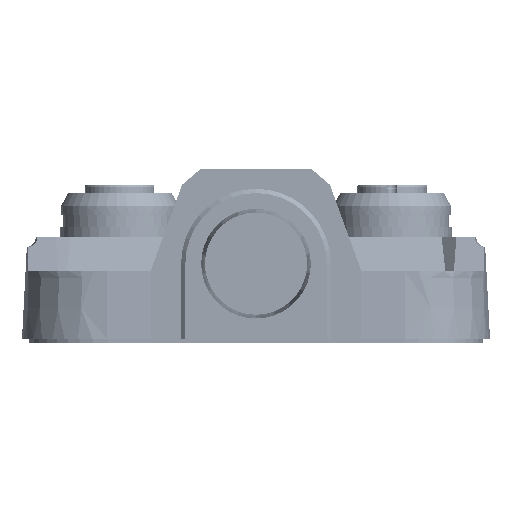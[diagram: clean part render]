
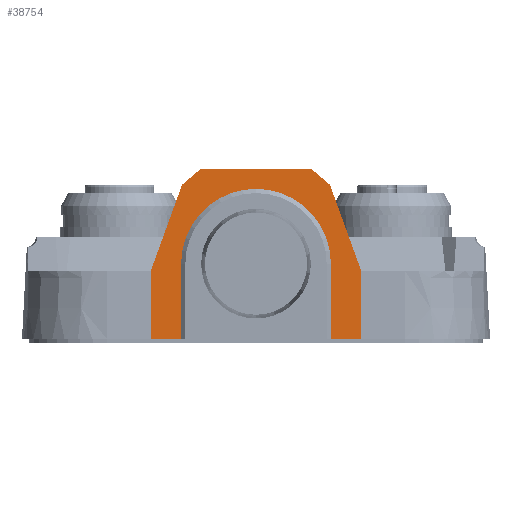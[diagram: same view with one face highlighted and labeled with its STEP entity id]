
A CAD part, left-side view. The second image highlights one B-rep face of the part: STEP entity #38754.
In plain terms, the highlighted planar face has unit normal (-1, 0, 0).
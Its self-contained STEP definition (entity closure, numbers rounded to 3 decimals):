
#2402=LINE('',#159469,#15999);
#2410=LINE('',#159493,#16007);
#6171=LINE('',#167333,#19768);
#6175=LINE('',#167341,#19772);
#6176=LINE('',#167343,#19773);
#6177=LINE('',#167345,#19774);
#6178=LINE('',#167347,#19775);
#6179=LINE('',#167349,#19776);
#6180=LINE('',#167350,#19777);
#6181=LINE('',#167351,#19778);
#6182=LINE('',#167355,#19779);
#15999=VECTOR('',#130554,1.);
#16007=VECTOR('',#130570,1.);
#19768=VECTOR('',#134519,1.);
#19772=VECTOR('',#134525,1.);
#19773=VECTOR('',#134528,1.);
#19774=VECTOR('',#134529,1.);
#19775=VECTOR('',#134530,1.);
#19776=VECTOR('',#134531,1.);
#19777=VECTOR('',#134532,1.);
#19778=VECTOR('',#134533,1.);
#19779=VECTOR('',#134536,1.);
#30997=PLANE('',#122801);
#38754=ADVANCED_FACE('',(#45288),#30997,.T.);
#45288=FACE_OUTER_BOUND('',#50964,.T.);
#50964=EDGE_LOOP('',(#62622,#62623,#62624,#62625,#62626,#62627,#62628,#62629,
#62630,#62631,#62632,#62633));
#62622=ORIENTED_EDGE('',*,*,#108035,.F.);
#62623=ORIENTED_EDGE('',*,*,#108036,.T.);
#62624=ORIENTED_EDGE('',*,*,#108037,.T.);
#62625=ORIENTED_EDGE('',*,*,#108038,.T.);
#62626=ORIENTED_EDGE('',*,*,#108034,.T.);
#62627=ORIENTED_EDGE('',*,*,#108030,.T.);
#62628=ORIENTED_EDGE('',*,*,#108039,.F.);
#62629=ORIENTED_EDGE('',*,*,#104174,.F.);
#62630=ORIENTED_EDGE('',*,*,#108040,.F.);
#62631=ORIENTED_EDGE('',*,*,#108041,.T.);
#62632=ORIENTED_EDGE('',*,*,#108042,.T.);
#62633=ORIENTED_EDGE('',*,*,#104186,.F.);
#92530=VERTEX_POINT('',#159467);
#92532=VERTEX_POINT('',#159470);
#92543=VERTEX_POINT('',#159492);
#92544=VERTEX_POINT('',#159494);
#96371=VERTEX_POINT('',#167320);
#96377=VERTEX_POINT('',#167334);
#96378=VERTEX_POINT('',#167338);
#96380=VERTEX_POINT('',#167344);
#96381=VERTEX_POINT('',#167346);
#96382=VERTEX_POINT('',#167348);
#96383=VERTEX_POINT('',#167352);
#96384=VERTEX_POINT('',#167354);
#104174=EDGE_CURVE('',#92530,#92532,#2402,.T.);
#104186=EDGE_CURVE('',#92543,#92544,#2410,.T.);
#108030=EDGE_CURVE('',#96377,#96371,#6171,.T.);
#108034=EDGE_CURVE('',#96378,#96377,#6175,.T.);
#108035=EDGE_CURVE('',#96380,#92543,#6176,.T.);
#108036=EDGE_CURVE('',#96380,#96381,#6177,.T.);
#108037=EDGE_CURVE('',#96381,#96382,#6178,.T.);
#108038=EDGE_CURVE('',#96382,#96378,#6179,.T.);
#108039=EDGE_CURVE('',#92532,#96371,#6180,.T.);
#108040=EDGE_CURVE('',#96383,#92530,#6181,.T.);
#108041=EDGE_CURVE('',#96383,#96384,#121122,.T.);
#108042=EDGE_CURVE('',#96384,#92544,#6182,.T.);
#121122=CIRCLE('',#122800,8.8);
#122800=AXIS2_PLACEMENT_3D('',#167353,#134534,#134535);
#122801=AXIS2_PLACEMENT_3D('',#167356,#134537,#134538);
#130554=DIRECTION('',(0.,1.,0.));
#130570=DIRECTION('',(0.,1.,0.));
#134519=DIRECTION('',(0.,0.342,-0.94));
#134525=DIRECTION('',(0.,0.758,-0.652));
#134528=DIRECTION('',(0.,0.,-1.));
#134529=DIRECTION('',(0.,0.342,0.94));
#134530=DIRECTION('',(0.,0.758,0.652));
#134531=DIRECTION('',(0.,1.,0.));
#134532=DIRECTION('',(0.,0.,1.));
#134533=DIRECTION('',(0.,0.,-1.));
#134534=DIRECTION('',(1.,0.,0.));
#134535=DIRECTION('',(0.,1.,0.));
#134536=DIRECTION('',(0.,0.,-1.));
#134537=DIRECTION('',(-1.,0.,0.));
#134538=DIRECTION('',(0.,-1.,0.));
#159467=CARTESIAN_POINT('',(-21.129,8.8,-12.));
#159469=CARTESIAN_POINT('',(-21.129,8.8,-12.));
#159470=CARTESIAN_POINT('',(-21.129,12.368,-12.));
#159492=CARTESIAN_POINT('',(-21.129,-12.368,-12.));
#159493=CARTESIAN_POINT('',(-21.129,-12.368,-12.));
#159494=CARTESIAN_POINT('',(-21.129,-8.8,-12.));
#167320=CARTESIAN_POINT('',(-21.129,12.368,-4.));
#167333=CARTESIAN_POINT('',(-21.129,8.684,6.121));
#167334=CARTESIAN_POINT('',(-21.129,8.684,6.121));
#167338=CARTESIAN_POINT('',(-21.129,6.5,8.));
#167341=CARTESIAN_POINT('',(-21.129,6.5,8.));
#167343=CARTESIAN_POINT('',(-21.129,-12.368,-4.));
#167344=CARTESIAN_POINT('',(-21.129,-12.368,-4.));
#167345=CARTESIAN_POINT('',(-21.129,-12.368,-4.));
#167346=CARTESIAN_POINT('',(-21.129,-8.684,6.121));
#167347=CARTESIAN_POINT('',(-21.129,-8.684,6.121));
#167348=CARTESIAN_POINT('',(-21.129,-6.5,8.));
#167349=CARTESIAN_POINT('',(-21.129,-6.5,8.));
#167350=CARTESIAN_POINT('',(-21.129,12.368,-12.));
#167351=CARTESIAN_POINT('',(-21.129,8.8,-3.15));
#167352=CARTESIAN_POINT('',(-21.129,8.8,-3.15));
#167353=CARTESIAN_POINT('',(-21.129,0.,-3.15));
#167354=CARTESIAN_POINT('',(-21.129,-8.8,-3.15));
#167355=CARTESIAN_POINT('',(-21.129,-8.8,-3.15));
#167356=CARTESIAN_POINT('',(-21.129,0.,-12.));
